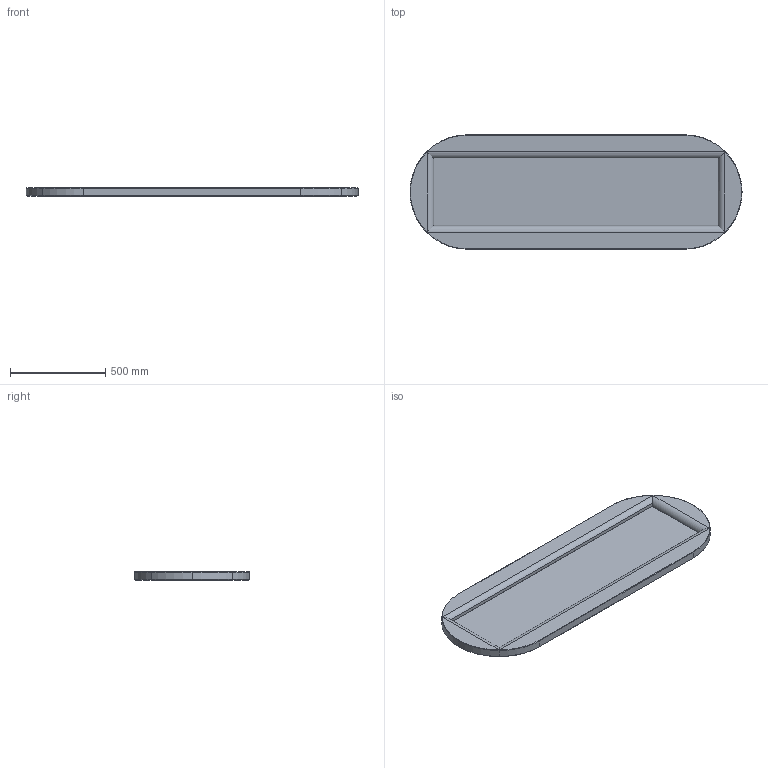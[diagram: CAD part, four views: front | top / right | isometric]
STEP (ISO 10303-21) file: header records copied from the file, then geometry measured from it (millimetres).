
FILE_DESCRIPTION (( 'STEP AP203' ), '1' );
FILE_NAME ('SIGNET MIRROR 174.STEP', '2025-08-29T11:31:50', ( '' ), ( '' ), 'SwSTEP 2.0', 'SolidWorks 2025', '' );
FILE_SCHEMA (( 'CONFIG_CONTROL_DESIGN' ));
Length unit declared in the file: millimetre
Products named in the file (3): Group1^SIGNET MIRROR 174; MirrorGroup1^SIGNET MIRROR 174; SIGNET MIRROR 174
Assembly tree (2 placements, depth 2):
  SIGNET MIRROR 174
    Group1^SIGNET MIRROR 174
    MirrorGroup1^SIGNET MIRROR 174
Bounding box: 1740 x 600 x 45 mm (x, y, z)
Volume: 22626489.1 mm3; surface area: 3423357.1 mm2
Topology: 3 solids, 3 shells, 78 faces, 182 edges, 110 vertices
Faces by surface type: plane 52, cylinder 14, torus 6, cone 6
Entity records: 2475 total; most frequent: CARTESIAN_POINT 393, DIRECTION 380, ORIENTED_EDGE 364, EDGE_CURVE 182, VECTOR 138, LINE 138, AXIS2_PLACEMENT_3D 121, VERTEX_POINT 110
